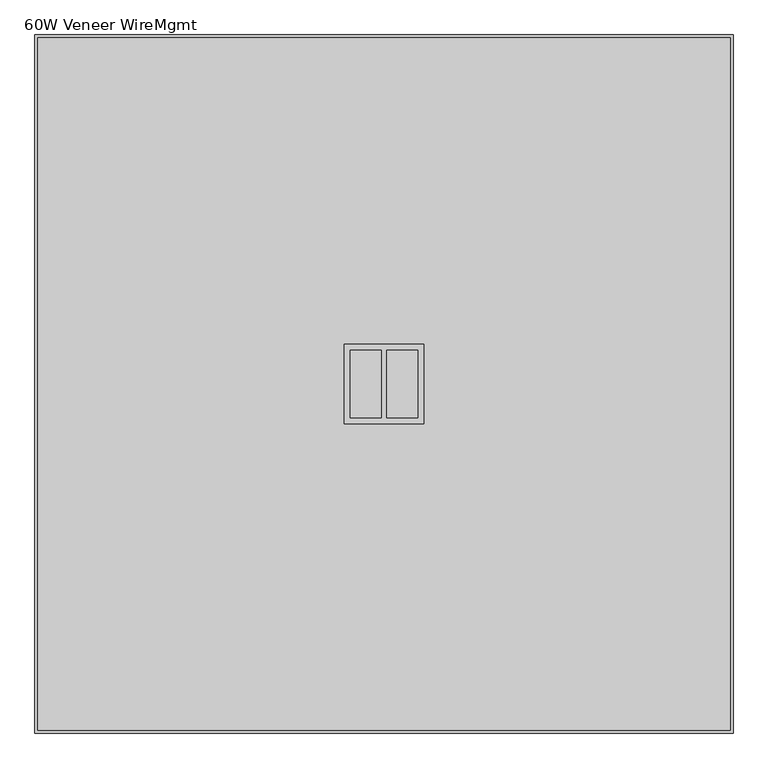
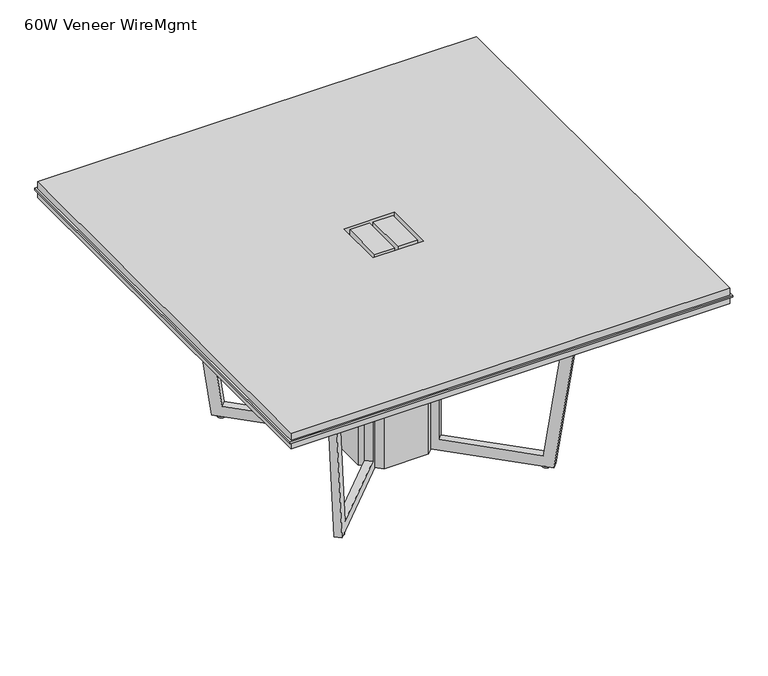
"""IFC4 building model written with IfcOpenShell, lengths in millimetres: furniture geometry, Knoll_Datesweiser_Tables_Meeting_Highline_Square : 60W Veneer WireMgmt."""

from ifc_helpers import new_model, si_unit, point, frame, frame_2d, origin, origin_with_axes, place, context, project, spatial, polyline, circle_curve, trimmed, segment, composite_curve, outline, extrude, faceted_brep, source, transform, mapped, element, save


def furniture_60w_veneer_wiremgmt_4f11b549(model_context):
    return source(origin(), model_context, "Body", "SolidModel", [
        extrude(outline(polyline([(762.0, 762.0), (762.0, -762.0), (-762.0, -762.0), (-762.0, 762.0), (762.0, 762.0)])), frame((0.0, 0.0, 698.5), z_axis=(0.0, 0.0, 1.0), x_axis=(1.0, 0.0, 0.0)), (0.0, 0.0, 1.0), 25.4),
        extrude(outline(polyline([(762.0, 762.0), (762.0, -762.0), (-762.0, -762.0), (-762.0, 762.0), (762.0, 762.0)]), holes=[polyline([(-87.3125, -87.3125), (87.3125, -87.3125), (87.3125, 87.3125), (-87.3125, 87.3125), (-87.3125, -87.3125)])]), frame((0.0, 0.0, 730.25), z_axis=(0.0, 0.0, 1.0), x_axis=(1.0, 0.0, 0.0)), (0.0, 0.0, 1.0), 25.4),
        extrude(outline(polyline([(6.35, -74.6125), (6.35, 74.6125), (74.6125, 74.6125), (74.6125, -74.6125), (6.35, -74.6125)])), frame((0.0, 0.0, 730.25), z_axis=(0.0, 0.0, 1.0), x_axis=(1.0, 0.0, 0.0)), (0.0, 0.0, 1.0), 25.4),
        extrude(outline(polyline([(-6.35, 74.6125), (-6.35, -74.6125), (-74.6125, -74.6125), (-74.6125, 74.6125), (-6.35, 74.6125)])), frame((0.0, 0.0, 730.25), z_axis=(0.0, 0.0, 1.0), x_axis=(1.0, 0.0, 0.0)), (0.0, 0.0, 1.0), 25.4),
        extrude(outline(polyline([(768.35, 768.35), (768.35, -768.35), (-768.35, -768.35), (-768.35, 768.35), (768.35, 768.35)]), holes=[polyline([(-87.3125, -87.3125), (87.3125, -87.3125), (87.3125, 87.3125), (-87.3125, 87.3125), (-87.3125, -87.3125)])]), frame((0.0, 0.0, 723.9), z_axis=(0.0, 0.0, 1.0), x_axis=(1.0, 0.0, 0.0)), (0.0, 0.0, 1.0), 6.35),
        extrude(outline(polyline([(6.35, -74.6125), (6.35, 74.6125), (74.6125, 74.6125), (74.6125, -74.6125), (6.35, -74.6125)])), frame((0.0, 0.0, 723.9), z_axis=(0.0, 0.0, 1.0), x_axis=(1.0, 0.0, 0.0)), (0.0, 0.0, 1.0), 6.35),
        extrude(outline(polyline([(-6.35, 74.6125), (-6.35, -74.6125), (-74.6125, -74.6125), (-74.6125, 74.6125), (-6.35, 74.6125)])), frame((0.0, 0.0, 723.9), z_axis=(0.0, 0.0, 1.0), x_axis=(1.0, 0.0, 0.0)), (0.0, 0.0, 1.0), 6.35),
        extrude(outline(composite_curve([segment(trimmed(circle_curve(frame_2d((-357.9481367, -357.9481367)), 12.7), [point((-345.2481367, -357.9481367))], [point((-370.6481367, -357.9481367))], False, "CARTESIAN"), True, "CONTINUOUS"), segment(trimmed(circle_curve(frame_2d((-357.9481367, -357.9481367)), 12.7), [point((-370.6481367, -357.9481367))], [point((-345.2481367, -357.9481367))], False, "CARTESIAN"), True, "CONTINUOUS")], self_intersect=False)), origin_with_axes(), (0.0, 0.0, 1.0), 5.9867797),
        extrude(outline(composite_curve([segment(trimmed(circle_curve(frame_2d((-357.9481367, 357.9481367)), 12.7), [point((-345.2481367, 357.9481367))], [point((-370.6481367, 357.9481367))], False, "CARTESIAN"), True, "CONTINUOUS"), segment(trimmed(circle_curve(frame_2d((-357.9481367, 357.9481367)), 12.7), [point((-370.6481367, 357.9481367))], [point((-345.2481367, 357.9481367))], False, "CARTESIAN"), True, "CONTINUOUS")], self_intersect=False)), origin_with_axes(), (0.0, 0.0, 1.0), 5.9867797),
        extrude(outline(composite_curve([segment(trimmed(circle_curve(frame_2d((357.9481367, -357.9481367)), 12.7), [point((370.6481367, -357.9481367))], [point((345.2481367, -357.9481367))], False, "CARTESIAN"), True, "CONTINUOUS"), segment(trimmed(circle_curve(frame_2d((357.9481367, -357.9481367)), 12.7), [point((345.2481367, -357.9481367))], [point((370.6481367, -357.9481367))], False, "CARTESIAN"), True, "CONTINUOUS")], self_intersect=False)), origin_with_axes(), (0.0, 0.0, 1.0), 5.9867797),
        extrude(outline(composite_curve([segment(trimmed(circle_curve(frame_2d((357.9481367, 357.9481367)), 12.7), [point((370.6481367, 357.9481367))], [point((345.2481367, 357.9481367))], False, "CARTESIAN"), True, "CONTINUOUS"), segment(trimmed(circle_curve(frame_2d((357.9481367, 357.9481367)), 12.7), [point((345.2481367, 357.9481367))], [point((370.6481367, 357.9481367))], False, "CARTESIAN"), True, "CONTINUOUS")], self_intersect=False)), origin_with_axes(), (0.0, 0.0, 1.0), 5.9867797),
        faceted_brep([(-105.5180417, 87.5575295, 698.5000242), (-132.4542329, 114.4937206, 698.5000242), (-132.4542329, 114.4937206, 44.0867803), (-362.731756, 344.7712438, 44.0867803), (-427.7656237, 409.8051114, 698.5000242), (-454.9711667, 437.0106545, 698.5000242), (-386.1246404, 368.1641282, 5.7213276), (-115.3405838, 97.3800716, 6.2173274), (-115.3405838, 97.3800716, 679.2551774), (-105.5179146, 87.5574023, 679.2551774), (368.1641282, -386.1246404, 5.7213276), (437.0106545, -454.9711667, 698.5000242), (409.8051114, -427.7656237, 698.5000242), (344.7712438, -362.731756, 44.0867803), (114.4937206, -132.4542329, 44.0867803), (114.4937206, -132.4542329, 698.5000242), (87.5575295, -105.5180417, 698.5000242), (87.5574023, -105.5179146, 679.2551774), (97.3800716, -115.3405838, 679.2551774), (97.3800716, -115.3405838, 6.2173274), (-368.1641282, 386.1246404, 5.7213276), (-437.0106545, 454.9711667, 698.5000242), (-409.8051114, 427.7656237, 698.5000242), (-344.7712438, 362.731756, 44.0867803), (-114.4937206, 132.4542329, 44.0867803), (-114.4937206, 132.4542329, 698.5000242), (-87.5575295, 105.5180417, 698.5000242), (-87.5574023, 105.5179146, 679.2551774), (-97.3800759, 115.3405882, 679.2551774), (-97.3800759, 115.3405882, 6.2173274), (105.5180417, -87.5575295, 698.5000242), (132.4542329, -114.4937206, 698.5000242), (132.4542329, -114.4937206, 44.0867803), (362.731756, -344.7712438, 44.0867803), (427.7656237, -409.8051114, 698.5000242), (454.9711667, -437.0106545, 698.5000242), (386.1246404, -368.1641282, 5.7213276), (115.3405882, -97.3800759, 6.2173274), (115.3405882, -97.3800759, 679.2551774), (105.5179146, -87.5574023, 679.2551774), (-134.8689207, 77.8517251, 679.2551774), (-134.8689207, -77.8517528, 679.2551774), (-77.8517251, -134.8689207, 679.2551774), (77.8517251, -134.8689207, 679.2551774), (134.8689207, -77.8517528, 679.2551774), (134.8689207, 77.8517251, 679.2551774), (77.8517528, 134.8689207, 679.2551774), (-77.8517528, 134.8689207, 679.2551774), (-134.8689207, 77.8517251, 5.8810183), (-77.8517528, 134.8689207, 5.8810183), (77.8517528, 134.8689207, 5.8810183), (134.8689207, 77.8517251, 5.8810183), (134.8689207, -77.8517528, 5.8810183), (77.8517251, -134.8689207, 5.8810183), (-77.8517251, -134.8689207, 5.8810183), (-134.8689207, -77.8517528, 5.8810183)], [[[0, 1, 2, 3, 4, 5, 6, 7, 8, 9]], [[10, 11, 12, 13, 14, 15, 16, 17, 18, 19]], [[20, 21, 22, 23, 24, 25, 26, 27, 28, 29]], [[30, 31, 32, 33, 34, 35, 36, 37, 38, 39]], [[3, 2, 24, 23]], [[4, 3, 23, 22]], [[5, 4, 22, 21]], [[6, 5, 21, 20]], [[6, 20, 29, 7]], [[26, 0, 9, 27]], [[1, 0, 26, 25]], [[2, 1, 25, 24]], [[36, 10, 19, 37]], [[11, 10, 36, 35]], [[12, 11, 35, 34]], [[13, 12, 34, 33]], [[14, 13, 33, 32]], [[15, 14, 32, 31]], [[16, 15, 31, 30]], [[16, 30, 39, 17]], [[40, 41, 42, 43, 18, 17, 39, 38, 44, 45, 46, 47, 28, 27, 9, 8]], [[48, 49, 50, 51, 52, 53, 54, 55]], [[41, 40, 48, 55]], [[42, 41, 55, 54]], [[43, 42, 54, 53]], [[53, 52, 44, 38, 37, 19, 18, 43]], [[45, 44, 52, 51]], [[46, 45, 51, 50]], [[47, 46, 50, 49]], [[49, 48, 40, 8, 7, 29, 28, 47]]]),
        extrude(outline(polyline([(687.3294598, 0.0), (687.8397529, -396.8441293), (-4.9398532, -494.2013488), (-4.9394938, -455.7269008), (649.4746093, -363.7612365), (649.4776515, -38.0996402), (-4.9355924, -38.0935268), (-4.9352365, 0.0), (687.3294598, 0.0)])), frame((105.5180091, 87.5574969, 693.5647877), z_axis=(-0.7071067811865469, 0.7071067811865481, 0.0), x_axis=(-6.605612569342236e-06, -6.605612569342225e-06, -0.9999999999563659)), (0.0, 0.0, 1.0), 25.4),
        extrude(outline(polyline([(687.3320105, 273.0371574), (-4.9326857, 273.0500913), (-4.9323299, 311.1436182), (649.480914, 311.1375048), (649.4839562, 636.7991012), (-4.9284285, 728.7769922), (-4.928069, 767.2514401), (687.849718, 669.8812771), (687.3320105, 273.0371574)])), frame((105.5180091, 87.5574969, 693.5647877), z_axis=(-0.7071067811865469, 0.7071067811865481, 0.0), x_axis=(-6.605612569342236e-06, -6.605612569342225e-06, -0.9999999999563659)), (0.0, 0.0, 1.0), 25.4),
    ])


if __name__ == "__main__":
    model = new_model("IFC4")
    model_context = context("Model", 3, world=origin())
    ifc_project = project(units=[si_unit("LENGTHUNIT", "METRE", prefix="MILLI")], contexts=[model_context])
    site = spatial("IfcSite", under=ifc_project)
    building = spatial("IfcBuilding", under=site)
    placement = place(None, origin())
    furniture_60w_veneer_wiremgmt_shape = furniture_60w_veneer_wiremgmt_4f11b549(model_context)
    element("IfcFurniture", 1, ObjectType="Knoll_Datesweiser_Tables_Meeting_Highline_Square : 60W Veneer WireMgmt", at=placement, inside=building, context=model_context, shape_type="MappedRepresentation", body=[
        mapped(furniture_60w_veneer_wiremgmt_shape, transform((0.0, 0.0, 0.0), x_axis=(1.0, 0.0, 0.0), y_axis=(0.0, 1.0, 0.0), z_axis=(0.0, 0.0, 1.0))),
    ])
    save(model, "model.ifc")
